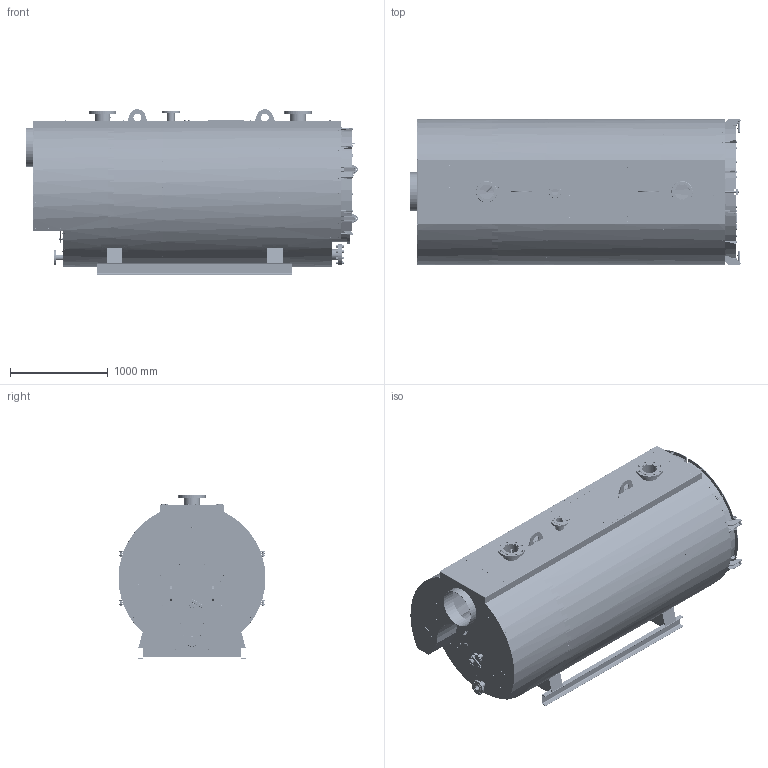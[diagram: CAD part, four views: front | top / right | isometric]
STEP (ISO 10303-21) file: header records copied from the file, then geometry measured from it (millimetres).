
FILE_DESCRIPTION(('STEP AP203'), '1');
FILE_NAME('Titan 3FT-1500', '', ('UNSPECIFIED'), ('UNSPECIFIED'), 'ASCON STEP Converter 1.6', 'ASCON Math Kernel', '');
FILE_SCHEMA(('CONFIG_CONTROL_DESIGN'));
Length unit declared in the file: millimetre
Products named in the file (1): КЕВМ.3135.00.00.000-01 СБ
Bounding box: 3397.88 x 1504.5 x 1692.59 mm (x, y, z)
Volume: 149810281.6 mm3; surface area: 57562534 mm2
Topology: 660 solids, 660 shells, 7766 faces, 16172 edges, 10271 vertices
Faces by surface type: plane 4337, cylinder 1993, cone 615, torus 495, bspline 308, sphere 16, extrusion 2
Full cylindrical faces by diameter (mm): 2 x2, 2.45 x192, 3.6 x8, 4 x196, 4.1 x18, 4.2 x8, 5 x16, 5.3 x38, 5.5 x38, 7 x30, 7.1 x38, 8 x8, 8.376 x16, 10 x31, 10.106 x16, 10.3 x8, 10.5 x15, 11 x44, 12 x64, 13 x27, 13.835 x20, 14 x28, 14.5 x1, 15 x39, 15.5 x16, 16 x31, 17 x24, 18 x28, 20 x31, 20.4 x1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
Entity records: 330420 total; most frequent: CARTESIAN_POINT 106685, DIRECTION 31991, ORIENTED_EDGE 27968, EDGE_CURVE 13984, AXIS2_PLACEMENT_3D 12796, EDGE_LOOP 11222, VERTEX_POINT 10135, COLOUR_RGB 8415
